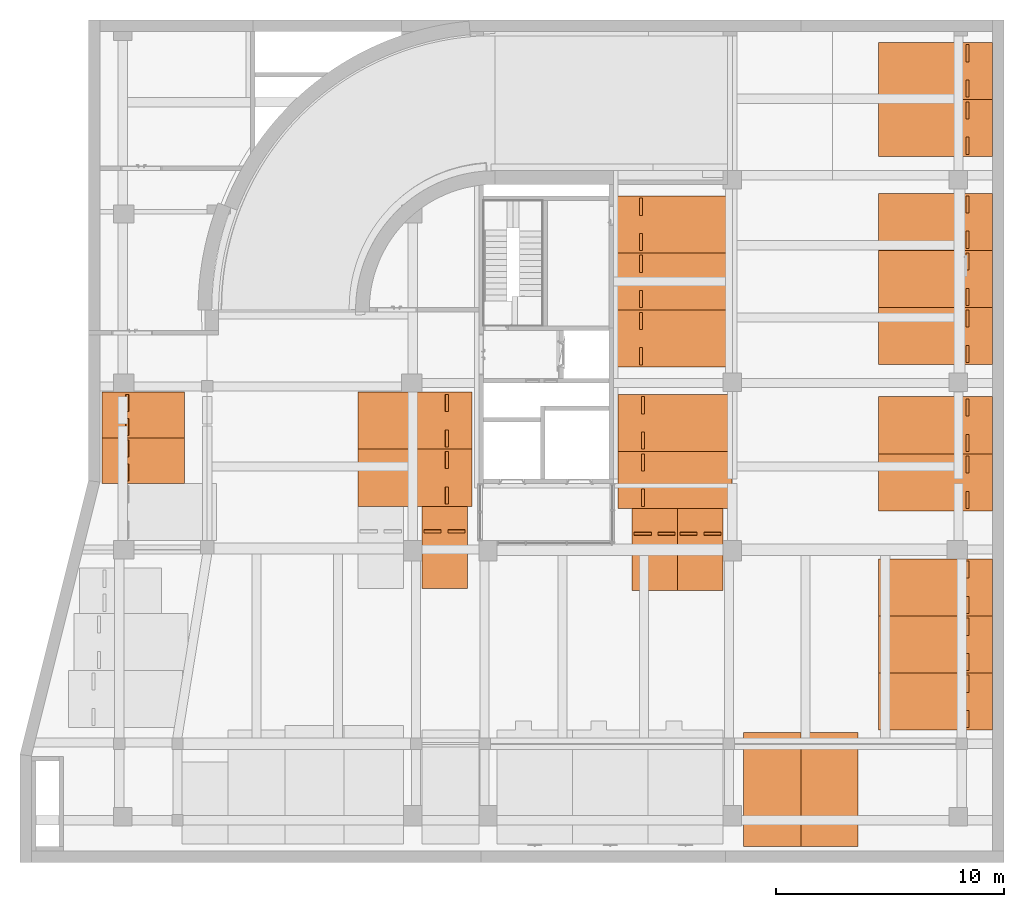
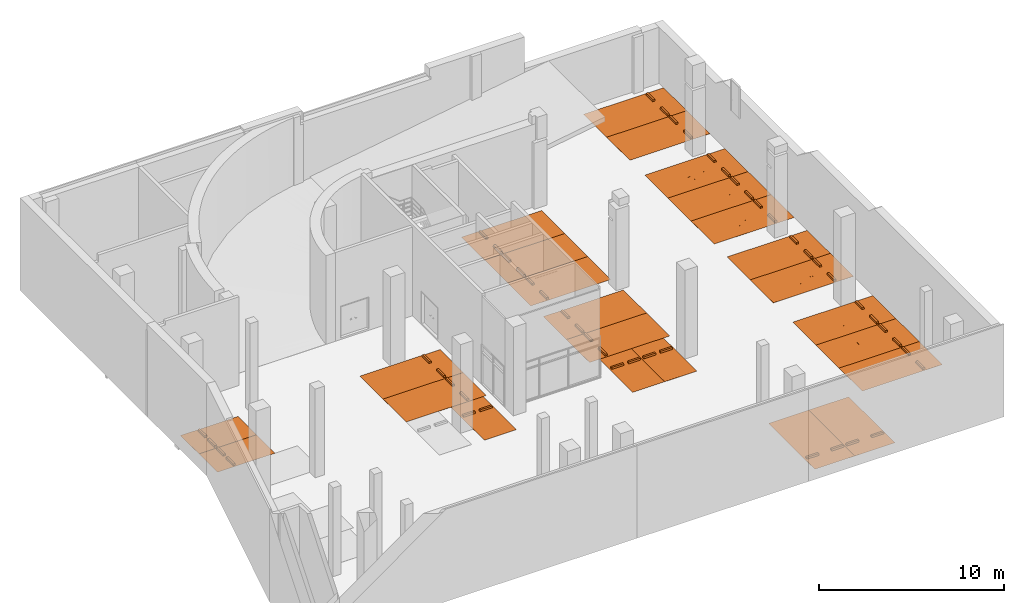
# One storey, part 29 of 29: 24 proxies.
"""IFC2X3 building model written with IfcOpenShell, lengths in millimetres."""

from ifc_helpers import new_model, entity, si_unit, converted_unit, derived_unit, direction, frame, frame_2d, origin, origin_2d_with_axis, place, context, subcontext, project, spatial, polyline, circle_curve, parameter, trimmed, segment, composite_curve, rectangle, circle, outline, extrude, source, transform, mapped, material, material_list, type_object, type_shapes, element, save


model = new_model("IFC2X3")

# Units and contexts
model_context = context("Model", 3, precision=0.01, world=origin(), true_north=direction((6.123031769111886e-17, 1.0)))
body_context = subcontext(model_context, "Body", "Model", "MODEL_VIEW")
ifc_project = project(units=[si_unit("LENGTHUNIT", "METRE", prefix="MILLI"), si_unit("AREAUNIT", "SQUARE_METRE"), si_unit("VOLUMEUNIT", "CUBIC_METRE"), converted_unit("PLANEANGLEUNIT", "DEGREE", entity("IfcRatioMeasure", 0.017453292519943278), si_unit("PLANEANGLEUNIT", "RADIAN"), dimensions=[0, 0, 0, 0, 0, 0, 0]), si_unit("MASSUNIT", "GRAM", prefix="KILO"), derived_unit("MASSDENSITYUNIT", [(si_unit("MASSUNIT", "GRAM", prefix="KILO"), 1), (si_unit("LENGTHUNIT", "METRE"), -3)]), derived_unit("MOMENTOFINERTIAUNIT", [(si_unit("LENGTHUNIT", "METRE"), 4)]), si_unit("TIMEUNIT", "SECOND"), si_unit("FREQUENCYUNIT", "HERTZ"), si_unit("THERMODYNAMICTEMPERATUREUNIT", "DEGREE_CELSIUS"), derived_unit("THERMALTRANSMITTANCEUNIT", [(si_unit("MASSUNIT", "GRAM", prefix="KILO"), 1), (si_unit("THERMODYNAMICTEMPERATUREUNIT", "KELVIN"), -1), (si_unit("TIMEUNIT", "SECOND"), -3)]), derived_unit("VOLUMETRICFLOWRATEUNIT", [(si_unit("LENGTHUNIT", "METRE"), 3), (si_unit("TIMEUNIT", "SECOND"), -1)]), derived_unit("MASSFLOWRATEUNIT", [(si_unit("MASSUNIT", "GRAM", prefix="KILO"), 1), (si_unit("TIMEUNIT", "SECOND"), -1)]), derived_unit("ROTATIONALFREQUENCYUNIT", [(si_unit("TIMEUNIT", "SECOND"), -1)]), si_unit("ELECTRICCURRENTUNIT", "AMPERE"), si_unit("ELECTRICVOLTAGEUNIT", "VOLT"), si_unit("POWERUNIT", "WATT"), si_unit("FORCEUNIT", "NEWTON", prefix="KILO"), si_unit("ILLUMINANCEUNIT", "LUX"), si_unit("LUMINOUSFLUXUNIT", "LUMEN"), si_unit("LUMINOUSINTENSITYUNIT", "CANDELA"), derived_unit("USERDEFINED", [(si_unit("MASSUNIT", "GRAM", prefix="KILO"), -1), (si_unit("LENGTHUNIT", "METRE"), -2), (si_unit("TIMEUNIT", "SECOND"), 3), (si_unit("LUMINOUSFLUXUNIT", "LUMEN"), 1)]), derived_unit("SOUNDPOWERUNIT", [(si_unit("MASSUNIT", "GRAM", prefix="KILO"), 1), (si_unit("LENGTHUNIT", "METRE"), 2), (si_unit("TIMEUNIT", "SECOND"), -3)]), derived_unit("SOUNDPRESSUREUNIT", [(si_unit("MASSUNIT", "GRAM", prefix="KILO"), 1), (si_unit("LENGTHUNIT", "METRE"), -1), (si_unit("TIMEUNIT", "SECOND"), -2)]), derived_unit("LINEARVELOCITYUNIT", [(si_unit("LENGTHUNIT", "METRE"), 1), (si_unit("TIMEUNIT", "SECOND"), -1)]), si_unit("PRESSUREUNIT", "PASCAL"), derived_unit("USERDEFINED", [(si_unit("LENGTHUNIT", "METRE"), -2), (si_unit("MASSUNIT", "GRAM", prefix="KILO"), 1), (si_unit("TIMEUNIT", "SECOND"), -2)]), derived_unit("LINEARFORCEUNIT", [(si_unit("MASSUNIT", "GRAM", prefix="KILO"), 1), (si_unit("LENGTHUNIT", "METRE"), 1), (si_unit("TIMEUNIT", "SECOND"), -2), (si_unit("LENGTHUNIT", "METRE"), -1)]), derived_unit("PLANARFORCEUNIT", [(si_unit("MASSUNIT", "GRAM", prefix="KILO"), 1), (si_unit("LENGTHUNIT", "METRE"), 1), (si_unit("TIMEUNIT", "SECOND"), -2), (si_unit("LENGTHUNIT", "METRE"), -2)])], contexts=[model_context])

# Site, building, storey, space
site_placement = place(None, frame((-14167.972527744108, -657.2125860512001, 0.0)))
site = spatial("IfcSite", under=ifc_project, at=site_placement, Name="Default", CompositionType="ELEMENT")
building_placement = place(site_placement, origin())
building = spatial("IfcBuilding", under=site, at=building_placement, Name="Sample Building", CompositionType="ELEMENT")
storey_placement = place(building_placement, frame((0.0, 0.0, -6100.0)))
storey = spatial("IfcBuildingStorey", under=building, at=storey_placement, Name="지하1층", CompositionType="ELEMENT", Elevation=-6099.999999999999)
space_placement = place(storey_placement, origin())
space = spatial("IfcSpace", under=storey, at=space_placement, Name="136", CompositionType="ELEMENT", InteriorOrExteriorSpace="INTERNAL")

# Proxies
ifc_material_1 = material(Name="KBIMS-고무_검은색")
ifc_material_2 = material(Name="KBIMS-에폭시 페인트")
ifc_material_list_1 = material_list([ifc_material_1, ifc_material_2])
ifc_material_list_2 = material_list([ifc_material_1, ifc_material_1, ifc_material_2])
building_element_proxy_type_1 = type_object("IfcBuildingElementProxyType", Name="SE251-기본주차:SE251-기본주차 일반형", PredefinedType="NOTDEFINED", material=ifc_material_list_2)
shared_shape_1 = source(origin(), body_context, "Body", "SweptSolid", [
    extrude(outline(polyline([(-52.09458852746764, -66.97875667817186), (68.83927769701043, -66.97875667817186), (50.23406750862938, 81.86292482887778), (-66.9787566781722, 52.09458852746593), (-52.09458852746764, -66.97875667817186)])), frame((220.98490989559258, 2900.0, 60.0), z_axis=(1.0, 0.0, 0.0), x_axis=(0.0, -0.12403473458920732, -0.9922778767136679)), (0.0, 0.0, 1.0), 749.9999999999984),
    extrude(outline(polyline([(-68.8392776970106, -66.97875667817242), (52.09458852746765, -66.9787566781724), (66.97875667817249, 52.09458852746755), (-50.234067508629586, 81.86292482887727), (-68.8392776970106, -66.97875667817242)])), frame((-1329.0150901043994, 2900.0, 60.0), z_axis=(1.0, 0.0, 0.0), x_axis=(0.0, -0.12403473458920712, 0.9922778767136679)), (0.0, 0.0, 1.0), 749.9999999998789),
    extrude(rectangle(XDim=2499.9999999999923, YDim=4999.999999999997, at=origin_2d_with_axis()), frame((-179.01509010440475, 1500.0, 0.0), z_axis=(0.0, 0.0, 1.0), x_axis=(-1.0, 0.0, 0.0)), (0.0, 0.0, 1.0), 1.6),
])
type_shapes(building_element_proxy_type_1, [shared_shape_1])
proxy_1_placement = place(space_placement, frame((45238.95732128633, 3657.211911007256, 100.0), z_axis=(0.0, 0.0, 1.0), x_axis=(-1.0, 0.0, 0.0)))
element("IfcBuildingElementProxy", 1, at=proxy_1_placement, inside=space, type_object=building_element_proxy_type_1, material=ifc_material_list_1, Name="SE251-기본주차:SE251-기본주차 일반형", ObjectType="SE251-기본주차:SE251-기본주차 일반형", context=body_context, shape_type="MappedRepresentation", body=[
    mapped(shared_shape_1, transform((0.0, 0.0, 0.0), scale=1.0)),
])
ifc_material_list_3 = material_list([ifc_material_1, ifc_material_2])
proxy_2_placement = place(space_placement, frame((42738.95732128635, 3657.2119110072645, 100.0), z_axis=(0.0, 0.0, 1.0), x_axis=(-1.0, 0.0, 0.0)))
element("IfcBuildingElementProxy", 2, at=proxy_2_placement, inside=space, type_object=building_element_proxy_type_1, material=ifc_material_list_3, Name="SE251-기본주차:SE251-기본주차 일반형", ObjectType="SE251-기본주차:SE251-기본주차 일반형", context=body_context, shape_type="MappedRepresentation", body=[
    mapped(shared_shape_1, transform((0.0, 0.0, 0.0), scale=1.0)),
])
ifc_material_list_4 = material_list([ifc_material_1, ifc_material_2])
proxy_3_placement = place(space_placement, frame((40067.981184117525, 27083.569767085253, 100.0), z_axis=(0.0, 0.0, 1.0), x_axis=(0.0, 1.0, 0.0)))
element("IfcBuildingElementProxy", 3, at=proxy_3_placement, inside=space, type_object=building_element_proxy_type_1, material=ifc_material_list_4, Name="SE251-기본주차:SE251-기본주차 일반형", ObjectType="SE251-기본주차:SE251-기본주차 일반형", context=body_context, shape_type="MappedRepresentation", body=[
    mapped(shared_shape_1, transform((0.0, 0.0, 0.0), scale=1.0)),
])
ifc_material_list_5 = material_list([ifc_material_1, ifc_material_2])
proxy_4_placement = place(space_placement, frame((40067.98118411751, 24583.569767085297, 100.0), z_axis=(0.0, 0.0, 1.0), x_axis=(0.0, 1.0, 0.0)))
element("IfcBuildingElementProxy", 4, at=proxy_4_placement, inside=space, type_object=building_element_proxy_type_1, material=ifc_material_list_5, Name="SE251-기본주차:SE251-기본주차 일반형", ObjectType="SE251-기본주차:SE251-기본주차 일반형", context=body_context, shape_type="MappedRepresentation", body=[
    mapped(shared_shape_1, transform((0.0, 0.0, 0.0), scale=1.0)),
])
ifc_material_list_6 = material_list([ifc_material_1, ifc_material_2])
proxy_5_placement = place(space_placement, frame((40067.98118411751, 22083.569767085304, 100.0), z_axis=(0.0, 0.0, 1.0), x_axis=(0.0, 1.0, 0.0)))
element("IfcBuildingElementProxy", 5, at=proxy_5_placement, inside=space, type_object=building_element_proxy_type_1, material=ifc_material_list_6, Name="SE251-기본주차:SE251-기본주차 일반형", ObjectType="SE251-기본주차:SE251-기본주차 일반형", context=body_context, shape_type="MappedRepresentation", body=[
    mapped(shared_shape_1, transform((0.0, 0.0, 0.0), scale=1.0)),
])
ifc_material_list_7 = material_list([ifc_material_1, ifc_material_2])
proxy_6_placement = place(space_placement, frame((40154.307641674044, 18387.16621740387, 100.0), z_axis=(0.0, 0.0, 1.0), x_axis=(0.0, 1.0, 0.0)))
element("IfcBuildingElementProxy", 6, at=proxy_6_placement, inside=space, type_object=building_element_proxy_type_1, material=ifc_material_list_7, Name="SE251-기본주차:SE251-기본주차 일반형", ObjectType="SE251-기본주차:SE251-기본주차 일반형", context=body_context, shape_type="MappedRepresentation", body=[
    mapped(shared_shape_1, transform((0.0, 0.0, 0.0), scale=1.0)),
])
ifc_material_list_8 = material_list([ifc_material_1, ifc_material_2])
proxy_7_placement = place(space_placement, frame((40154.307641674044, 15887.166217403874, 100.0), z_axis=(0.0, 0.0, 1.0), x_axis=(0.0, 1.0, 0.0)))
element("IfcBuildingElementProxy", 7, at=proxy_7_placement, inside=space, type_object=building_element_proxy_type_1, material=ifc_material_list_8, Name="SE251-기본주차:SE251-기본주차 일반형", ObjectType="SE251-기본주차:SE251-기본주차 일반형", context=body_context, shape_type="MappedRepresentation", body=[
    mapped(shared_shape_1, transform((0.0, 0.0, 0.0), scale=1.0)),
])
ifc_material_list_9 = material_list([ifc_material_1, ifc_material_2])
ifc_material_list_10 = material_list([ifc_material_1, ifc_material_1, ifc_material_2])
building_element_proxy_type_2 = type_object("IfcBuildingElementProxyType", Name="SE251-기본주차:SE251-기본주차 경형", PredefinedType="NOTDEFINED", material=ifc_material_list_10)
shared_shape_2 = source(origin(), body_context, "Body", "SweptSolid", [
    extrude(outline(polyline([(-52.09458852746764, -66.97875667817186), (68.83927769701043, -66.97875667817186), (50.23406750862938, 81.86292482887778), (-66.9787566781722, 52.09458852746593), (-52.09458852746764, -66.97875667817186)])), frame((220.98490989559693, 1500.0, 60.0), z_axis=(1.0, 0.0, 0.0), x_axis=(0.0, -0.12403473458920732, -0.9922778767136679)), (0.0, 0.0, 1.0), 749.9999999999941),
    extrude(outline(polyline([(-68.8392776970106, -66.97875667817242), (52.09458852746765, -66.9787566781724), (66.97875667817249, 52.09458852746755), (-50.234067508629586, 81.86292482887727), (-68.8392776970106, -66.97875667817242)])), frame((-829.0150901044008, 1500.0, 60.0), z_axis=(1.0, 0.0, 0.0), x_axis=(0.0, -0.12403473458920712, 0.9922778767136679)), (0.0, 0.0, 1.0), 749.9999999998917),
    extrude(rectangle(XDim=1999.999999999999, YDim=3600.000000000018, at=frame_2d((-5.684341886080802e-14, 0.0), x_axis=(1.0, 0.0))), frame((70.98490989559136, 800.0, 0.0), z_axis=(0.0, 0.0, 1.0), x_axis=(-1.0, 0.0, 0.0)), (0.0, 0.0, 1.0), 1.6),
])
type_shapes(building_element_proxy_type_2, [shared_shape_2])
proxy_8_placement = place(space_placement, frame((16167.97249113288, 16486.226913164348, 100.0), z_axis=(0.0, 0.0, 1.0), x_axis=(0.0, 1.0, 0.0)))
element("IfcBuildingElementProxy", 8, at=proxy_8_placement, inside=space, type_object=building_element_proxy_type_2, material=ifc_material_list_9, Name="SE251-기본주차:SE251-기본주차 경형", ObjectType="SE251-기본주차:SE251-기본주차 경형", context=body_context, shape_type="MappedRepresentation", body=[
    mapped(shared_shape_2, transform((0.0, 0.0, 0.0), scale=1.0)),
])
ifc_material_list_11 = material_list([ifc_material_1, ifc_material_2])
proxy_9_placement = place(space_placement, frame((16167.972491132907, 18486.226965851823, 100.0), z_axis=(0.0, 0.0, 1.0), x_axis=(0.0, 1.0, 0.0)))
element("IfcBuildingElementProxy", 9, at=proxy_9_placement, inside=space, type_object=building_element_proxy_type_2, material=ifc_material_list_11, Name="SE251-기본주차:SE251-기본주차 경형", ObjectType="SE251-기본주차:SE251-기본주차 경형", context=body_context, shape_type="MappedRepresentation", body=[
    mapped(shared_shape_2, transform((0.0, 0.0, 0.0), scale=1.0)),
])
ifc_material_list_12 = material_list([ifc_material_1, ifc_material_2])
ifc_material_list_13 = material_list([ifc_material_1, ifc_material_1, ifc_material_2])
building_element_proxy_type_3 = type_object("IfcBuildingElementProxyType", Name="SE251-기본주차:SE251-기본주차 일반형", PredefinedType="NOTDEFINED", material=ifc_material_list_13)
shared_shape_3 = source(origin(), body_context, "Body", "SweptSolid", [
    extrude(outline(polyline([(-60.0, -60.0), (60.0, -60.0), (75.0, 60.0), (-75.0, 60.0), (-60.0, -60.0)])), frame((220.98490989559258, -2900.0, 60.0), z_axis=(1.0, 0.0, 0.0), x_axis=(0.0, -1.0, 0.0)), (0.0, 0.0, 1.0), 749.9999999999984),
    extrude(outline(polyline([(-75.0, -60.0), (75.0, -60.0), (60.0, 60.0), (-60.0, 60.0), (-75.0, -60.0)])), frame((-1329.0150901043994, -2900.0, 60.0), z_axis=(1.0, 0.0, 0.0), x_axis=(0.0, 1.0, 0.0)), (0.0, 0.0, 1.0), 749.999999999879),
    extrude(rectangle(XDim=4999.999999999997, YDim=2499.9999999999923, at=origin_2d_with_axis()), frame((-179.01509010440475, -1500.0, 0.0), z_axis=(0.0, 0.0, 1.0), x_axis=(0.0, 1.0, 0.0)), (0.0, 0.0, 1.0), 1.6),
])
type_shapes(building_element_proxy_type_3, [shared_shape_3])
proxy_10_placement = place(space_placement, frame((25767.972491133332, 18486.226905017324, 100.0), z_axis=(0.0, 0.0, 1.0), x_axis=(0.0, 1.0, 0.0)))
element("IfcBuildingElementProxy", 10, at=proxy_10_placement, inside=space, type_object=building_element_proxy_type_3, material=ifc_material_list_12, Name="SE251-기본주차:SE251-기본주차 일반형", ObjectType="SE251-기본주차:SE251-기본주차 일반형", context=body_context, shape_type="MappedRepresentation", body=[
    mapped(shared_shape_3, transform((0.0, 0.0, 0.0), scale=1.0)),
])
ifc_material_list_14 = material_list([ifc_material_1, ifc_material_2])
proxy_11_placement = place(space_placement, frame((25767.972491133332, 15986.226943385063, 100.0), z_axis=(0.0, 0.0, 1.0), x_axis=(0.0, 1.0, 0.0)))
element("IfcBuildingElementProxy", 11, at=proxy_11_placement, inside=space, type_object=building_element_proxy_type_3, material=ifc_material_list_14, Name="SE251-기본주차:SE251-기본주차 일반형", ObjectType="SE251-기본주차:SE251-기본주차 일반형", context=body_context, shape_type="MappedRepresentation", body=[
    mapped(shared_shape_3, transform((0.0, 0.0, 0.0), scale=1.0)),
])
ifc_material_list_15 = material_list([ifc_material_1, ifc_material_2])
proxy_12_placement = place(space_placement, frame((48567.9811841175, 33804.60768412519, 100.0), z_axis=(0.0, 0.0, 1.0), x_axis=(0.0, 1.0, 0.0)))
element("IfcBuildingElementProxy", 12, at=proxy_12_placement, inside=space, type_object=building_element_proxy_type_3, material=ifc_material_list_15, Name="SE251-기본주차:SE251-기본주차 일반형", ObjectType="SE251-기본주차:SE251-기본주차 일반형", context=body_context, shape_type="MappedRepresentation", body=[
    mapped(shared_shape_3, transform((0.0, 0.0, 0.0), scale=1.0)),
])
ifc_material_list_16 = material_list([ifc_material_1, ifc_material_2])
proxy_13_placement = place(space_placement, frame((48567.9811841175, 31304.60768412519, 100.0), z_axis=(0.0, 0.0, 1.0), x_axis=(0.0, 1.0, 0.0)))
element("IfcBuildingElementProxy", 13, at=proxy_13_placement, inside=space, type_object=building_element_proxy_type_3, material=ifc_material_list_16, Name="SE251-기본주차:SE251-기본주차 일반형", ObjectType="SE251-기본주차:SE251-기본주차 일반형", context=body_context, shape_type="MappedRepresentation", body=[
    mapped(shared_shape_3, transform((0.0, 0.0, 0.0), scale=1.0)),
])
ifc_material_list_17 = material_list([ifc_material_1, ifc_material_2])
ifc_material_list_18 = material_list([ifc_material_1, ifc_material_1, ifc_material_2])
building_element_proxy_type_4 = type_object("IfcBuildingElementProxyType", Name="SE251-기본주차:SE251-기본주차 경형", PredefinedType="NOTDEFINED", material=ifc_material_list_18)
shared_shape_4 = source(origin(), body_context, "Body", "SweptSolid", [
    extrude(outline(polyline([(-60.0, -60.0), (60.0, -60.0), (75.0, 60.0), (-75.0, 60.0), (-60.0, -60.0)])), frame((220.98490989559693, -1500.0, 60.0), z_axis=(1.0, 0.0, 0.0), x_axis=(0.0, -1.0, 0.0)), (0.0, 0.0, 1.0), 749.9999999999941),
    extrude(outline(polyline([(-75.0, -60.0), (75.0, -60.0), (60.0, 60.0), (-60.0, 60.0), (-75.0, -60.0)])), frame((-829.0150901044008, -1500.0, 60.0), z_axis=(1.0, 0.0, 0.0), x_axis=(0.0, 1.0, 0.0)), (0.0, 0.0, 1.0), 749.9999999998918),
    extrude(rectangle(XDim=3600.000000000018, YDim=1999.999999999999, at=frame_2d((0.0, 5.684341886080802e-14), x_axis=(1.0, 0.0))), frame((70.98490989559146, -800.0, 0.0), z_axis=(0.0, 0.0, 1.0), x_axis=(0.0, 1.0, 0.0)), (0.0, 0.0, 1.0), 1.6),
])
type_shapes(building_element_proxy_type_4, [shared_shape_4])
proxy_14_placement = place(space_placement, frame((28638.957401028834, 11957.211853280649, 100.0), z_axis=(0.0, 0.0, 1.0), x_axis=(-1.0, 0.0, 0.0)))
element("IfcBuildingElementProxy", 14, at=proxy_14_placement, inside=space, type_object=building_element_proxy_type_4, material=ifc_material_list_17, Name="SE251-기본주차:SE251-기본주차 경형", ObjectType="SE251-기본주차:SE251-기본주차 경형", context=body_context, shape_type="MappedRepresentation", body=[
    mapped(shared_shape_4, transform((0.0, 0.0, 0.0), scale=1.0)),
])
ifc_material_list_19 = material_list([ifc_material_1, ifc_material_2])
proxy_15_placement = place(space_placement, frame((37838.95740102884, 11858.151127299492, 100.0), z_axis=(0.0, 0.0, 1.0), x_axis=(-1.0, 0.0, 0.0)))
element("IfcBuildingElementProxy", 15, at=proxy_15_placement, inside=space, type_object=building_element_proxy_type_4, material=ifc_material_list_19, Name="SE251-기본주차:SE251-기본주차 경형", ObjectType="SE251-기본주차:SE251-기본주차 경형", context=body_context, shape_type="MappedRepresentation", body=[
    mapped(shared_shape_4, transform((0.0, 0.0, 0.0), scale=1.0)),
])
ifc_material_list_20 = material_list([ifc_material_1, ifc_material_2])
proxy_16_placement = place(space_placement, frame((39838.957401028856, 11858.151127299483, 100.0), z_axis=(0.0, 0.0, 1.0), x_axis=(-1.0, 0.0, 0.0)))
element("IfcBuildingElementProxy", 16, at=proxy_16_placement, inside=space, type_object=building_element_proxy_type_4, material=ifc_material_list_20, Name="SE251-기본주차:SE251-기본주차 경형", ObjectType="SE251-기본주차:SE251-기본주차 경형", context=body_context, shape_type="MappedRepresentation", body=[
    mapped(shared_shape_4, transform((0.0, 0.0, 0.0), scale=1.0)),
])
ifc_material_3 = material(Name="KBIMS-노면용 페인트_분홍색")
ifc_material_list_21 = material_list([ifc_material_3, ifc_material_3, ifc_material_1, ifc_material_1, ifc_material_2])
ifc_material_list_22 = material_list([ifc_material_3, ifc_material_3, ifc_material_1, ifc_material_1, ifc_material_2])
building_element_proxy_type_5 = type_object("IfcBuildingElementProxyType", Name="SE251-기본주차:SE251-기본주차 여성전용일반형", PredefinedType="NOTDEFINED", material=ifc_material_list_22)
shared_shape_5 = source(origin(), body_context, "Body", "SweptSolid", [
    extrude(outline(composite_curve([segment(trimmed(circle_curve(frame_2d((0.0, 483.82448490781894), x_axis=(1.0, 0.0)), 150.0), [parameter(3.5622212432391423e-13)], [parameter(180.00000000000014)], True, "PARAMETER"), True, "CONTINUOUS"), segment(polyline([(-150.0, 483.8244849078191), (-150.0, 273.5359166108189)]), True, "CONTINUOUS"), segment(trimmed(circle_curve(frame_2d((28.75000000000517, -170.59244321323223), x_axis=(-0.37336814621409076, 0.9276832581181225)), 478.75000000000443), [parameter(4.0711099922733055e-13)], [parameter(68.07650983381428)], True, "PARAMETER"), True, "CONTINUOUS"), segment(polyline([(-450.0, -170.5924432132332), (-100.0, -170.59244321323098)]), True, "CONTINUOUS"), segment(polyline([(-100.0, -170.59244321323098), (-100.0, -416.1755150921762)]), True, "CONTINUOUS"), segment(polyline([(-100.0, -416.1755150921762), (100.0, -416.175515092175)]), True, "CONTINUOUS"), segment(polyline([(100.0, -416.175515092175), (100.0, -170.59244321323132)]), True, "CONTINUOUS"), segment(polyline([(100.0, -170.59244321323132), (450.0, -170.5924432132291)]), True, "CONTINUOUS"), segment(trimmed(circle_curve(frame_2d((-28.750000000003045, -170.59244321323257), x_axis=(1.0, 0.0)), 478.7500000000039), [parameter(3.5622212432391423e-13)], [parameter(68.07650983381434)], True, "PARAMETER"), True, "CONTINUOUS"), segment(polyline([(150.0, 273.53591661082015), (150.0, 483.8244849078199)]), True, "CONTINUOUS")], self_intersect=False)), frame((-179.0150901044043, 1216.1755150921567, 1.6)), (0.0, 0.0, 1.0), 1.0),
    extrude(circle(Radius=150.0, at=frame_2d((0.0, -2.707167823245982e-13), x_axis=(1.0, 0.0))), frame((-179.0150901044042, 2050.0, 1.6)), (0.0, 0.0, 1.0), 1.0),
    extrude(outline(polyline([(-52.09458852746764, -66.97875667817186), (68.83927769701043, -66.97875667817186), (50.23406750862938, 81.86292482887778), (-66.9787566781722, 52.09458852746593), (-52.09458852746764, -66.97875667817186)])), frame((220.98490989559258, 2900.0, 60.0), z_axis=(1.0, 0.0, 0.0), x_axis=(0.0, -0.12403473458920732, -0.9922778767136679)), (0.0, 0.0, 1.0), 749.9999999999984),
    extrude(outline(polyline([(-68.8392776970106, -66.97875667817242), (52.09458852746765, -66.9787566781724), (66.97875667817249, 52.09458852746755), (-50.234067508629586, 81.86292482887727), (-68.8392776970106, -66.97875667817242)])), frame((-1329.0150901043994, 2900.0, 60.0), z_axis=(1.0, 0.0, 0.0), x_axis=(0.0, -0.12403473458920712, 0.9922778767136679)), (0.0, 0.0, 1.0), 749.9999999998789),
    extrude(rectangle(XDim=2499.9999999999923, YDim=4999.999999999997, at=origin_2d_with_axis()), frame((-179.01509010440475, 1500.0, 0.0), z_axis=(0.0, 0.0, 1.0), x_axis=(-1.0, 0.0, 0.0)), (0.0, 0.0, 1.0), 1.6),
])
type_shapes(building_element_proxy_type_5, [shared_shape_5])
proxy_17_placement = place(space_placement, frame((48567.9811841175, 26828.196820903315, 100.0), z_axis=(0.0, 0.0, 1.0), x_axis=(0.0, -1.0, 0.0)))
element("IfcBuildingElementProxy", 17, at=proxy_17_placement, inside=space, type_object=building_element_proxy_type_5, material=ifc_material_list_21, Name="SE251-기본주차:SE251-기본주차 여성전용일반형", ObjectType="SE251-기본주차:SE251-기본주차 여성전용일반형", context=body_context, shape_type="MappedRepresentation", body=[
    mapped(shared_shape_5, transform((0.0, 0.0, 0.0), scale=1.0)),
])
ifc_material_list_23 = material_list([ifc_material_3, ifc_material_1, ifc_material_2])
proxy_18_placement = place(space_placement, frame((48567.9811841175, 24328.19682090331, 100.0), z_axis=(0.0, 0.0, 1.0), x_axis=(0.0, -1.0, 0.0)))
element("IfcBuildingElementProxy", 18, at=proxy_18_placement, inside=space, type_object=building_element_proxy_type_5, material=ifc_material_list_23, Name="SE251-기본주차:SE251-기본주차 여성전용일반형", ObjectType="SE251-기본주차:SE251-기본주차 여성전용일반형", context=body_context, shape_type="MappedRepresentation", body=[
    mapped(shared_shape_5, transform((0.0, 0.0, 0.0), scale=1.0)),
])
ifc_material_list_24 = material_list([ifc_material_3, ifc_material_1, ifc_material_2])
proxy_19_placement = place(space_placement, frame((48567.9811841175, 21828.19682090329, 100.0), z_axis=(0.0, 0.0, 1.0), x_axis=(0.0, -1.0, 0.0)))
element("IfcBuildingElementProxy", 19, at=proxy_19_placement, inside=space, type_object=building_element_proxy_type_5, material=ifc_material_list_24, Name="SE251-기본주차:SE251-기본주차 여성전용일반형", ObjectType="SE251-기본주차:SE251-기본주차 여성전용일반형", context=body_context, shape_type="MappedRepresentation", body=[
    mapped(shared_shape_5, transform((0.0, 0.0, 0.0), scale=1.0)),
])
ifc_material_list_25 = material_list([ifc_material_3, ifc_material_1, ifc_material_2])
proxy_20_placement = place(space_placement, frame((48567.9811841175, 17928.19682090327, 100.0), z_axis=(0.0, 0.0, 1.0), x_axis=(0.0, -1.0, 0.0)))
element("IfcBuildingElementProxy", 20, at=proxy_20_placement, inside=space, type_object=building_element_proxy_type_5, material=ifc_material_list_25, Name="SE251-기본주차:SE251-기본주차 여성전용일반형", ObjectType="SE251-기본주차:SE251-기본주차 여성전용일반형", context=body_context, shape_type="MappedRepresentation", body=[
    mapped(shared_shape_5, transform((0.0, 0.0, 0.0), scale=1.0)),
])
ifc_material_list_26 = material_list([ifc_material_3, ifc_material_1, ifc_material_2])
proxy_21_placement = place(space_placement, frame((48567.98118411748, 15428.196820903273, 100.0), z_axis=(0.0, 0.0, 1.0), x_axis=(0.0, -1.0, 0.0)))
element("IfcBuildingElementProxy", 21, at=proxy_21_placement, inside=space, type_object=building_element_proxy_type_5, material=ifc_material_list_26, Name="SE251-기본주차:SE251-기본주차 여성전용일반형", ObjectType="SE251-기본주차:SE251-기본주차 여성전용일반형", context=body_context, shape_type="MappedRepresentation", body=[
    mapped(shared_shape_5, transform((0.0, 0.0, 0.0), scale=1.0)),
])
ifc_material_list_27 = material_list([ifc_material_3, ifc_material_1, ifc_material_2])
proxy_22_placement = place(space_placement, frame((48567.98118411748, 10828.196820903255, 100.0), z_axis=(0.0, 0.0, 1.0), x_axis=(0.0, -1.0, 0.0)))
element("IfcBuildingElementProxy", 22, at=proxy_22_placement, inside=space, type_object=building_element_proxy_type_5, material=ifc_material_list_27, Name="SE251-기본주차:SE251-기본주차 여성전용일반형", ObjectType="SE251-기본주차:SE251-기본주차 여성전용일반형", context=body_context, shape_type="MappedRepresentation", body=[
    mapped(shared_shape_5, transform((0.0, 0.0, 0.0), scale=1.0)),
])
ifc_material_list_28 = material_list([ifc_material_3, ifc_material_1, ifc_material_2])
proxy_23_placement = place(space_placement, frame((48567.98118411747, 8328.196820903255, 100.0), z_axis=(0.0, 0.0, 1.0), x_axis=(0.0, -1.0, 0.0)))
element("IfcBuildingElementProxy", 23, at=proxy_23_placement, inside=space, type_object=building_element_proxy_type_5, material=ifc_material_list_28, Name="SE251-기본주차:SE251-기본주차 여성전용일반형", ObjectType="SE251-기본주차:SE251-기본주차 여성전용일반형", context=body_context, shape_type="MappedRepresentation", body=[
    mapped(shared_shape_5, transform((0.0, 0.0, 0.0), scale=1.0)),
])
ifc_material_list_29 = material_list([ifc_material_3, ifc_material_1, ifc_material_2])
proxy_24_placement = place(space_placement, frame((48567.98118411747, 5828.196820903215, 100.0), z_axis=(0.0, 0.0, 1.0), x_axis=(0.0, -1.0, 0.0)))
element("IfcBuildingElementProxy", 24, at=proxy_24_placement, inside=space, type_object=building_element_proxy_type_5, material=ifc_material_list_29, Name="SE251-기본주차:SE251-기본주차 여성전용일반형", ObjectType="SE251-기본주차:SE251-기본주차 여성전용일반형", context=body_context, shape_type="MappedRepresentation", body=[
    mapped(shared_shape_5, transform((0.0, 0.0, 0.0), scale=1.0)),
])

save(model, "model.ifc")
